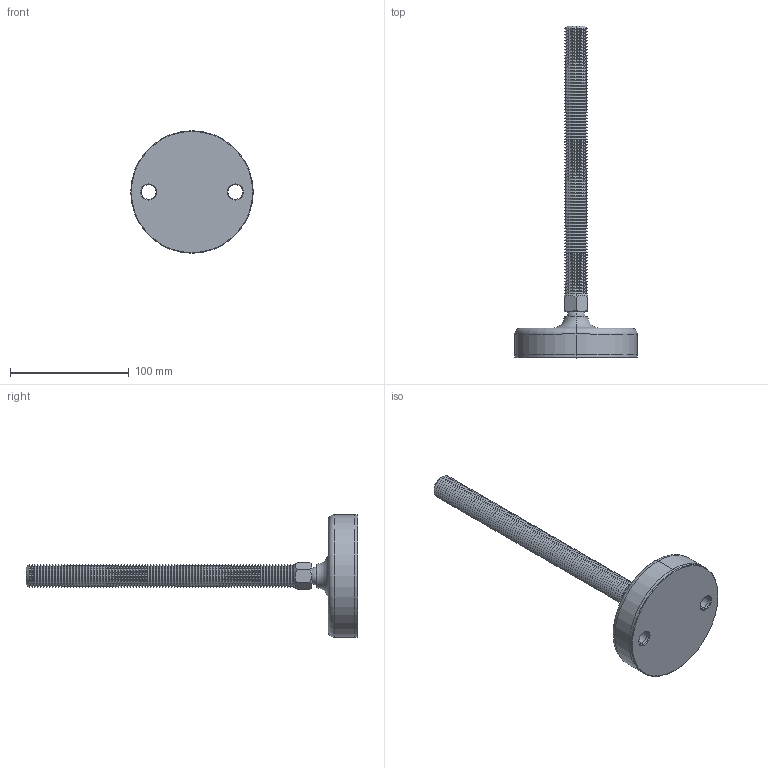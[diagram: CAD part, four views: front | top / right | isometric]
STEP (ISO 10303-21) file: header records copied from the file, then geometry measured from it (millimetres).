
FILE_DESCRIPTION (( 'STEP AP203' ), '1' );
FILE_NAME ('34724.W2013.step', '2019-11-28T22:19:12', ( '' ), ( '' ), 'SwSTEP 2.0', 'SolidWorks 2017', '' );
FILE_SCHEMA (( 'CONFIG_CONTROL_DESIGN' ));
Length unit declared in the file: millimetre
Products named in the file (4): Part1_34724.W2013; Part2_34724.W2013; Part3_34724.W2013; 34724.W2013
Assembly tree (3 placements, depth 2):
  34724.W2013
    Part1_34724.W2013
    Part2_34724.W2013
    Part3_34724.W2013
Bounding box: 103 x 279 x 103 mm (x, y, z)
Volume: 267411.9 mm3; surface area: 69292 mm2
Topology: 3 solids, 3 shells, 408 faces, 831 edges, 429 vertices
Faces by surface type: cone 374, plane 14, cylinder 12, sphere 4, torus 4
Entity records: 10866 total; most frequent: DIRECTION 2056, CARTESIAN_POINT 1812, ORIENTED_EDGE 1644, AXIS2_PLACEMENT_3D 832, EDGE_CURVE 822, VERTEX_POINT 424, EDGE_LOOP 420, CIRCLE 418
